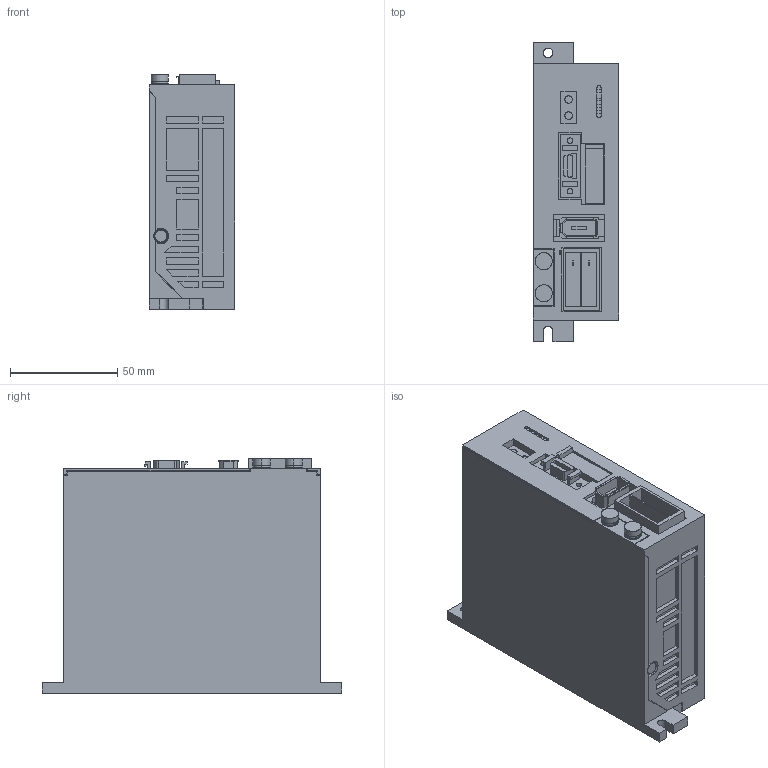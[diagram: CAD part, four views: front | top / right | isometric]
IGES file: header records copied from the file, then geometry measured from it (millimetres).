
Start section: SolidWorks IGES file using analytic representation for surfaces
Global section: file name: D:\YASKAWA\sjde_04apa_oy.IGS; native system: SolidWorks 2006 by SolidWorks Corporation; preprocessor: SolidWorks 2006 by SolidWorks Corporation; author: yamanouchi; date: 111109.083752; units: millimetre
Bounding box: 40.1 x 140 x 109.6 mm (x, y, z)
Surface area: 55509.7 mm2 (no closed solid volume)
Topology: 0 solids, 0 shells, 469 faces, 3558 edges, 3558 vertices
Faces by surface type: bspline 423, revolution 46
